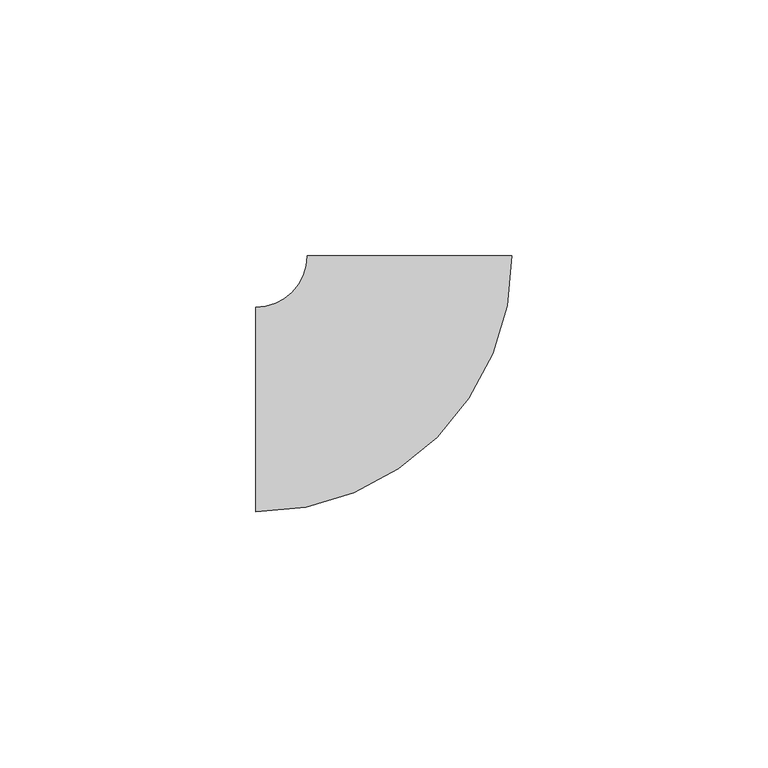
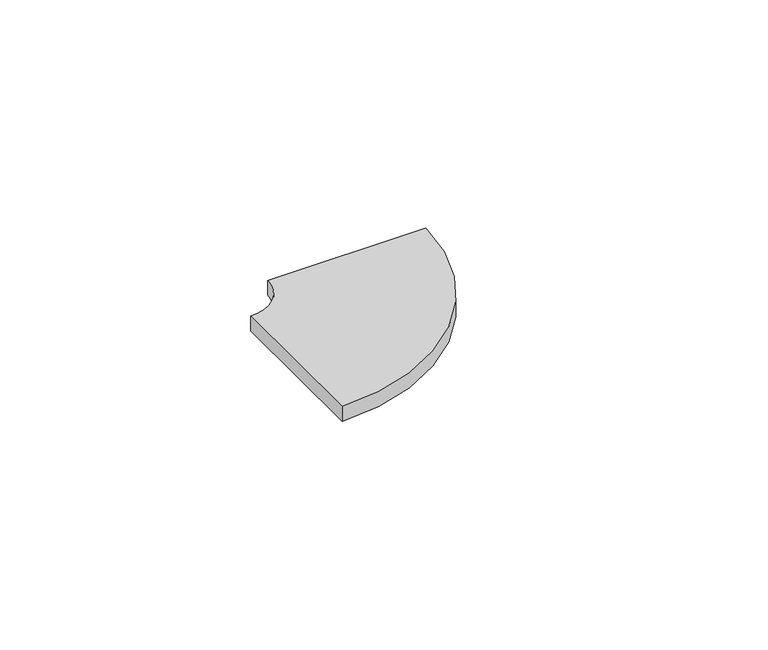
"""IFC4 building model written with IfcOpenShell, lengths in millimetres: duct fitting geometry, КНС_Поворот_Полоса_Неспецифицируемое_DKC : Изгиб полосы."""

from ifc_helpers import new_model, si_unit, point, frame, frame_2d, origin, place, context, project, spatial, polyline, circle_curve, trimmed, segment, composite_curve, outline, extrude, source, transform, mapped, element, save


def duct_fitting_60905858(model_context):
    return source(origin(), model_context, "Body", "SweptSolid", [
        extrude(outline(composite_curve([segment(trimmed(circle_curve(frame_2d((-30.0, 30.0)), 50.0), [point((20.0, 30.0))], [point((-30.0, -20.0))], False, "CARTESIAN"), True, "CONTINUOUS"), segment(polyline([(-30.0, -20.0), (-30.0, 20.0)]), True, "CONTINUOUS"), segment(trimmed(circle_curve(frame_2d((-30.0, 30.0)), 10.0), [point((-30.0, 20.0))], [point((-20.0, 30.0))], True, "CARTESIAN"), True, "CONTINUOUS"), segment(polyline([(-20.0, 30.0), (20.0, 30.0)]), True, "CONTINUOUS")], self_intersect=False)), frame((0.0, 0.0, -2.0), z_axis=(0.0, 0.0, 1.0), x_axis=(1.0, 0.0, 0.0)), (0.0, 0.0, 1.0), 4.0),
    ])


if __name__ == "__main__":
    model = new_model("IFC4")
    model_context = context("Model", 3, world=origin())
    ifc_project = project(units=[si_unit("LENGTHUNIT", "METRE", prefix="MILLI")], contexts=[model_context])
    site = spatial("IfcSite", under=ifc_project)
    building = spatial("IfcBuilding", under=site)
    placement = place(None, origin())
    duct_fitting_shape = duct_fitting_60905858(model_context)
    element("IfcDuctFitting", 1, ObjectType="КНС_Поворот_Полоса_Неспецифицируемое_DKC : Изгиб полосы", at=placement, inside=building, context=model_context, shape_type="MappedRepresentation", body=[
        mapped(duct_fitting_shape, transform((0.0, 0.0, 0.0), x_axis=(1.0, 0.0, 0.0), y_axis=(0.0, 1.0, 0.0), z_axis=(0.0, 0.0, 1.0))),
    ])
    save(model, "model.ifc")
